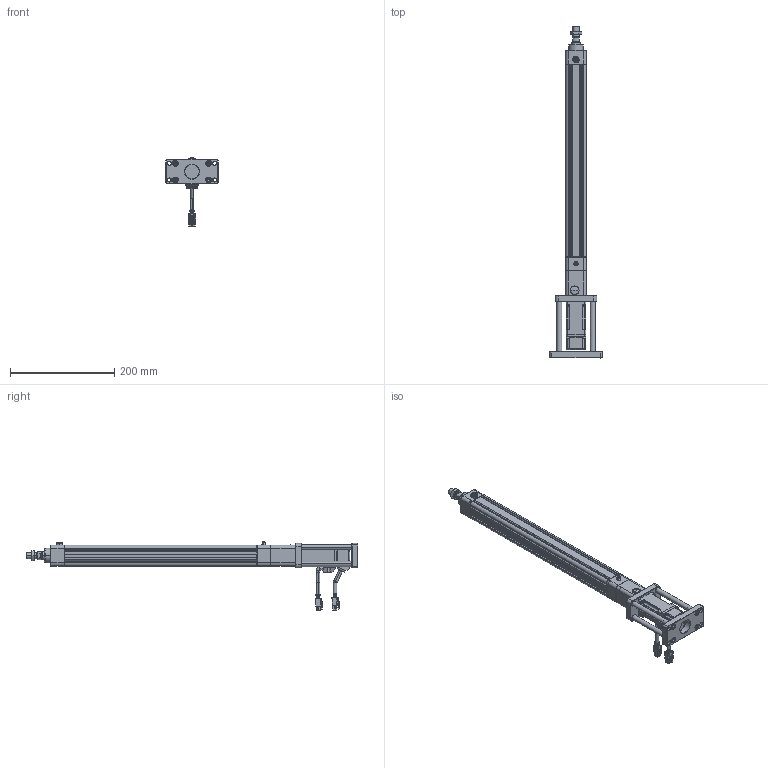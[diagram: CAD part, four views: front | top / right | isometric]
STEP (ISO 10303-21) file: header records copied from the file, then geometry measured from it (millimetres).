
FILE_DESCRIPTION((''),'2;1');
FILE_NAME('HE32-D-100-2-5_ASM','2020-04-30T',('ASUS20200'),(''),'CREO PARAMETRIC BY PTC INC, 2014190','CREO PARAMETRIC BY PTC INC, 2014190','');
FILE_SCHEMA(('CONFIG_CONTROL_DESIGN'));
Length unit declared in the file: millimetre
Products named in the file (28): HE32-001-X1; HE32-002-X1; HE32-003-X1; 636ZZ; HE32-007-X1; HE32-008-X1; 1_1; 2_1; 3_1; 4_1; 5_1; 6_1; 7_1; ASM0001_ASM; TF1622-20; SLM-01; YZ-M6X1; SKT-13; HE32-40N-FB-LG10; F-HE32FB; M6X16; HE32-005-X1; HE32-004-X1; HE32-D-P-008-X1; LGLM-M6-22; TD-3; M3X16; HE32-D-100-2-5_ASM
Assembly tree (46 placements, depth 3):
  HE32-D-100-2-5_ASM
    HE32-001-X1
    HE32-002-X1
    HE32-003-X1
    636ZZ
    HE32-007-X1
    HE32-008-X1
    ASM0001_ASM
      1_1
      2_1
      3_1
      4_1
      5_1
      6_1
      7_1
    TF1622-20
    SLM-01
    YZ-M6X1
    SKT-13
    HE32-40N-FB-LG10  x4
    F-HE32FB
    M6X16  x8
    HE32-005-X1
    HE32-004-X1
    HE32-D-P-008-X1
    LGLM-M6-22  x4
    TD-3  x4
    M3X16  x4
Bounding box: 100 x 638 x 134.2 mm (x, y, z)
Volume: 674273.2 mm3; surface area: 292492.7 mm2
Topology: 45 solids, 74 shells, 2549 faces, 6053 edges, 3724 vertices
Faces by surface type: plane 1060, cylinder 729, cone 636, torus 94, bspline 18, sphere 12
Entity records: 62511 total; most frequent: CARTESIAN_POINT 12162, DIRECTION 11038, ORIENTED_EDGE 9870, EDGE_CURVE 4975, AXIS2_PLACEMENT_3D 4130, VERTEX_POINT 3095, VECTOR 2778, LINE 2778
